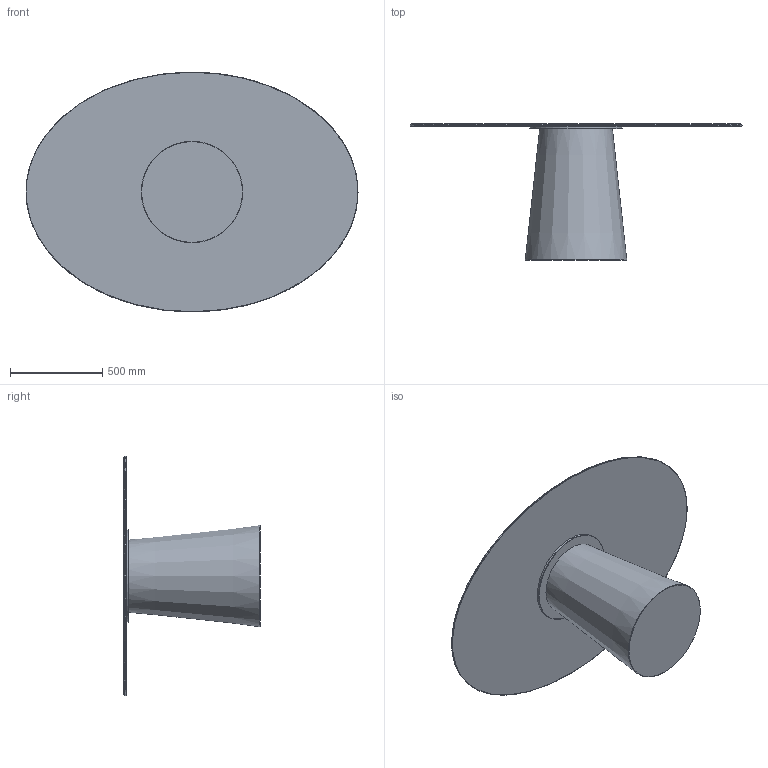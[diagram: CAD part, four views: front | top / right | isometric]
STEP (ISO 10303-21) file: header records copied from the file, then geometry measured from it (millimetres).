
FILE_DESCRIPTION((''),'2;1');
FILE_NAME('C:\AutodeskVault\AreaLavoro\Progetti\SoVeT Italia\1. Tavoli_Dining tables\Totem\Totem Elliptical\Web file\Totem Elliptical Web\P1602.stp','2012-05-02T13:56:18',('Gianluca'),('So.Ve.T. s.r.l.'),'Autodesk Inventor 2011','Autodesk Inventor 2011','IL PROGETTO E'' DI ESCLUSIVA PROPRIETA'' DELLA SO.VE.T. srl. E'' VIETATA OGNI RIPRODUZIONE TOTALE O PARZIALE E QUALSIASI UTILIZZO NON AUTORIZZATO.');
FILE_SCHEMA(('AUTOMOTIVE_DESIGN { 1 0 10303 214 1 1 1 1 }'));
Length unit declared in the file: millimetre
Products named in the file (1): P1602 Contorno semplificato
Bounding box: 1799.67 x 739 x 1299.83 mm (x, y, z)
Volume: 150769462.4 mm3; surface area: 4925412 mm2
Topology: 1 solids, 2 shells, 18 faces, 27 edges, 17 vertices
Faces by surface type: plane 8, bspline 3, cone 3, cylinder 3, torus 1
Full cylindrical faces by diameter (mm): 500 x2, 546.982 x1
Entity records: 1014 total; most frequent: CARTESIAN_POINT 676, DIRECTION 56, ORIENTED_EDGE 36, EDGE_LOOP 30, AXIS2_PLACEMENT_3D 28, STYLED_ITEM 19, EDGE_CURVE 18, FACE_OUTER_BOUND 18
